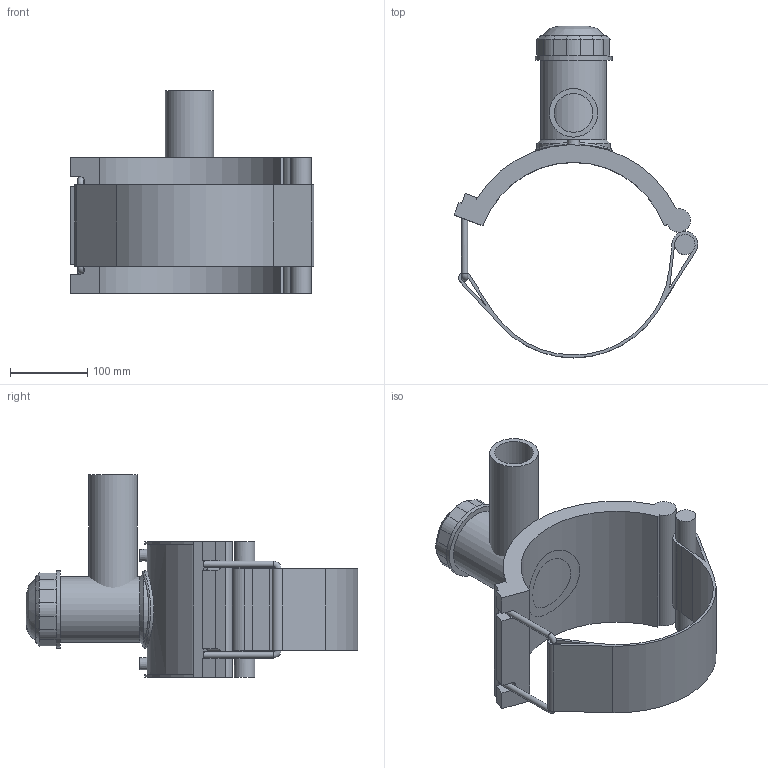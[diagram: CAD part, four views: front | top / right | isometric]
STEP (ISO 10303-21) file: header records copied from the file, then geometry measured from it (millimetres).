
FILE_DESCRIPTION(/* description */ (''),/* implementation_level */ '2;1');
FILE_NAME(/* name */ 'C:\Dropbox\KIMPROJECTS-Inventor 2019\99-16-3568-Processing\ElectroFusion Fittings\4963P4\stp\4963P4250063.stp',/* time_stamp */ '2022-03-17T11:33:31+02:00',/* author */ ('KIM'),/* organization */ (''),/* preprocessor_version */ 'ST-DEVELOPER v17.2',/* originating_system */ 'Autodesk Inventor 2019',/* authorisation */ '');
FILE_SCHEMA (('AUTOMOTIVE_DESIGN { 1 0 10303 214 3 1 1 }'));
Length unit declared in the file: millimetre
Products named in the file (1): 4963P4250063
Bounding box: 316.46 x 430.75 x 263 mm (x, y, z)
Volume: 2514819.8 mm3; surface area: 462875 mm2
Topology: 3 solids, 3 shells, 118 faces, 297 edges, 193 vertices
Faces by surface type: plane 65, cylinder 38, cone 11, torus 2, bspline 2
Full cylindrical faces by diameter (mm): 4 x2, 8 x2, 10 x2, 26.346 x1, 50.4 x1, 63 x1, 70 x1, 85 x1, 95 x1, 100 x2
Entity records: 4041 total; most frequent: CARTESIAN_POINT 1063, DIRECTION 631, ORIENTED_EDGE 596, EDGE_CURVE 298, AXIS2_PLACEMENT_3D 229, VERTEX_POINT 193, LINE 173, VECTOR 173
